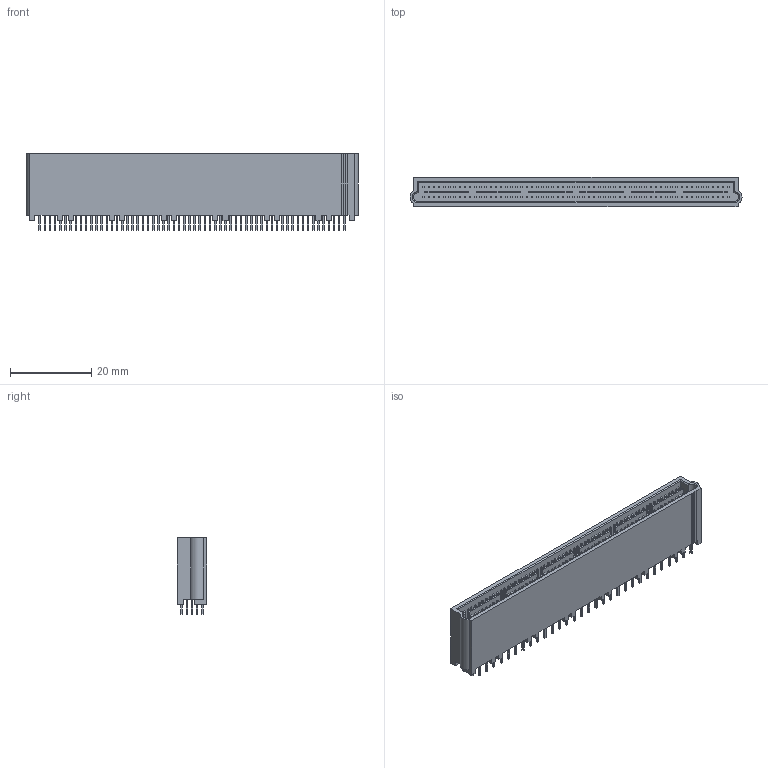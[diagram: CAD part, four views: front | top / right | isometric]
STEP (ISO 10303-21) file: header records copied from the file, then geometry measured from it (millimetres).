
FILE_DESCRIPTION((''),'2;1');
FILE_NAME('C-5149009-5','2009-03-20T',('workeradm'),('Tyco Electronics Corporation'),'PRO/ENGINEER BY PARAMETRIC TECHNOLOGY CORPORATION, 2007390','PRO/ENGINEER BY PARAMETRIC TECHNOLOGY CORPORATION, 2007390','');
FILE_SCHEMA(('AUTOMOTIVE_DESIGN { 1 0 10303 214 1 1 1 1 }'));
Length unit declared in the file: millimetre
Products named in the file (1): C-5149009-5
Bounding box: 81.64 x 7.29 x 18.87 mm (x, y, z)
Volume: 7358.2 mm3; surface area: 6930.5 mm2
Topology: 1 solids, 1 shells, 1493 faces, 3654 edges, 2434 vertices
Faces by surface type: plane 1487, cylinder 4, cone 2
Entity records: 43061 total; most frequent: CARTESIAN_POINT 7602, ORIENTED_EDGE 7308, DIRECTION 6646, EDGE_CURVE 3654, VECTOR 3640, LINE 3640, VERTEX_POINT 2434, EDGE_LOOP 1764
